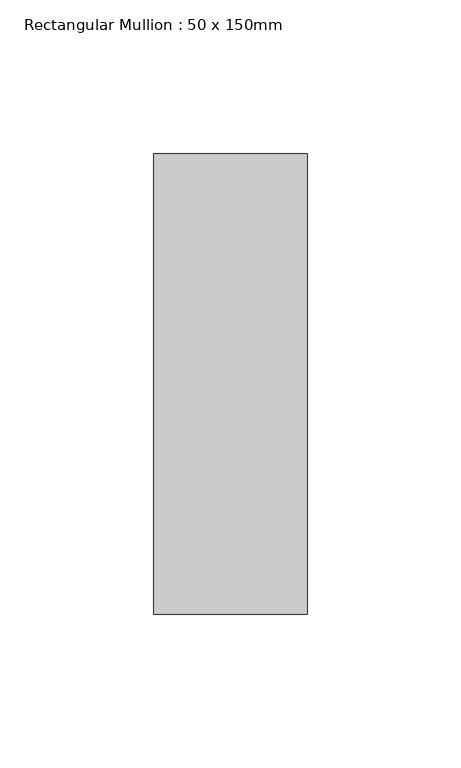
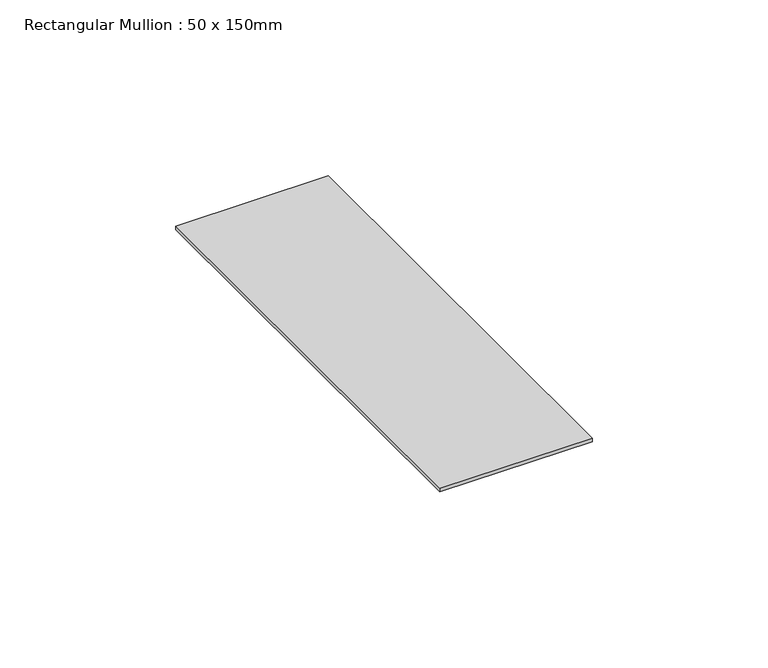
"""IFC4 building model written with IfcOpenShell, lengths in millimetres: member geometry, Rectangular Mullion : 50 x 150mm."""

from ifc_helpers import new_model, si_unit, frame, origin, place, context, project, spatial, polyline, outline, extrude, source, transform, mapped, element, save


def rectangular_mullion_50_x_150mm_90195c33(model_context):
    return source(origin(), model_context, "Body", "SweptSolid", [
        extrude(outline(polyline([(0.0, 75.0), (0.0, -75.0), (-50.0, -75.0), (-50.0, 75.0), (0.0, 75.0)])), frame((0.0, 0.0, -1.2106179), z_axis=(0.0, 0.0, 1.0), x_axis=(1.0, 0.0, 0.0)), (0.0, 0.0, 1.0), 1.2106179),
    ])


if __name__ == "__main__":
    model = new_model("IFC4")
    model_context = context("Model", 3, world=origin())
    ifc_project = project(units=[si_unit("LENGTHUNIT", "METRE", prefix="MILLI")], contexts=[model_context])
    site = spatial("IfcSite", under=ifc_project)
    building = spatial("IfcBuilding", under=site)
    placement = place(None, origin())
    rectangular_mullion_50_x_150mm_shape = rectangular_mullion_50_x_150mm_90195c33(model_context)
    element("IfcMember", 1, ObjectType="Rectangular Mullion : 50 x 150mm", at=placement, inside=building, context=model_context, shape_type="MappedRepresentation", body=[
        mapped(rectangular_mullion_50_x_150mm_shape, transform((0.0, 0.0, 0.0), x_axis=(1.0, 0.0, 0.0), y_axis=(0.0, 1.0, 0.0), z_axis=(0.0, 0.0, 1.0))),
    ])
    save(model, "model.ifc")
